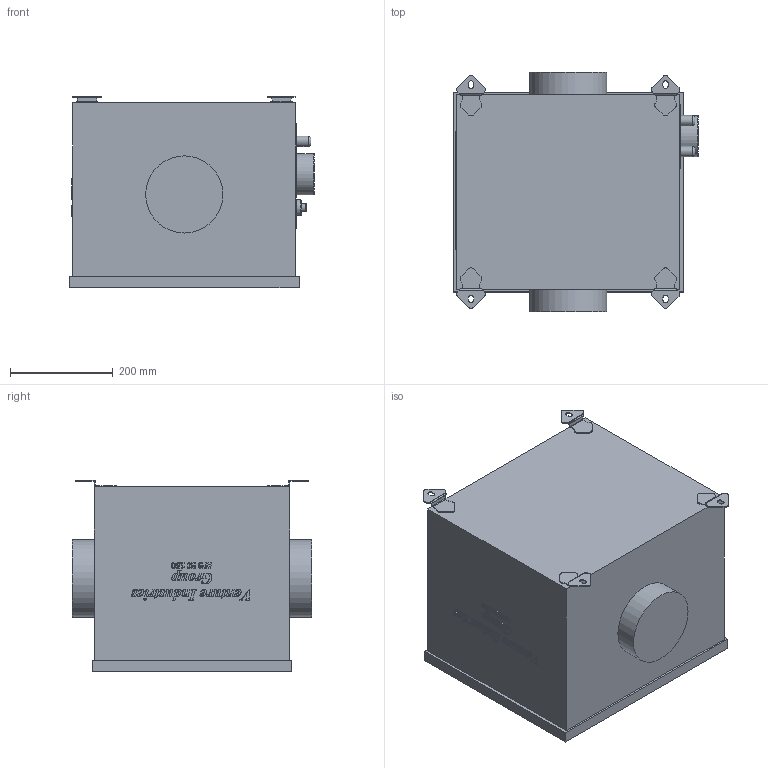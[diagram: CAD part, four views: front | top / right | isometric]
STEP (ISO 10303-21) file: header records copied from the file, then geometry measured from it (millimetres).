
FILE_DESCRIPTION(/* description */ (''),/* implementation_level */ '2;1');
FILE_NAME(/* name */ 'D:\Piotr - Dokumenty\Modele uproszczone\AFB EC\AFB_EC_150\AFB_EC_150.stp',/* time_stamp */ '2021-03-23T13:33:44+01:00',/* author */ ('Piotr.Nowotniak'),/* organization */ (''),/* preprocessor_version */ 'ST-DEVELOPER v18',/* originating_system */ 'Autodesk Inventor 2020',/* authorisation */ '');
FILE_SCHEMA (('AUTOMOTIVE_DESIGN { 1 0 10303 214 3 1 1 }'));
Length unit declared in the file: millimetre
Products named in the file (1): AFB_EC_150
Bounding box: 476 x 465.8 x 372.46 mm (x, y, z)
Volume: 61239189.3 mm3; surface area: 1006343.3 mm2
Topology: 1 solids, 1 shells, 795 faces, 2197 edges, 1458 vertices
Faces by surface type: bspline 373, plane 334, cylinder 83, torus 5
Full cylindrical faces by diameter (mm): 15 x1, 20.2 x2, 30 x1, 80 x1, 150 x2
Entity records: 31492 total; most frequent: CARTESIAN_POINT 13318, ORIENTED_EDGE 4394, DIRECTION 2458, EDGE_CURVE 2197, VERTEX_POINT 1458, LINE 1290, VECTOR 1290, EDGE_LOOP 857
